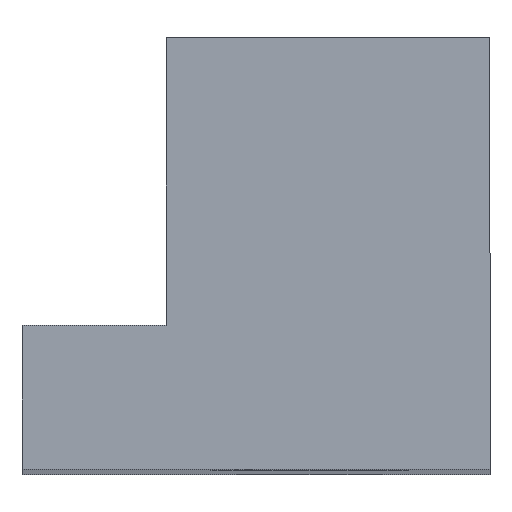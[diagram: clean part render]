
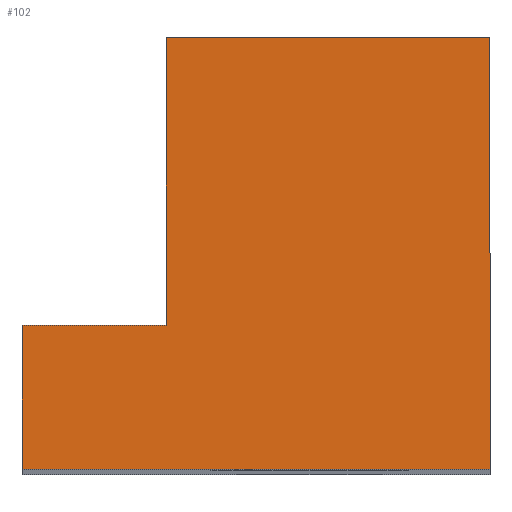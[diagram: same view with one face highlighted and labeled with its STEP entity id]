
A CAD part, top view. The second image highlights one B-rep face of the part: STEP entity #102.
In plain terms, the highlighted planar face has unit normal (0, 0, 1).
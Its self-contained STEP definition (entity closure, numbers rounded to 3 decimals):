
#102=ADVANCED_FACE('',(#192),#194,.T.);
#192=FACE_BOUND('',#193,.T.);
#193=EDGE_LOOP('',(#246,#247,#248,#249,#250,#251));
#194=PLANE('',#195);
#195=AXIS2_PLACEMENT_3D('',#196,#197,#198);
#196=CARTESIAN_POINT('',(0.,0.,80.));
#197=DIRECTION('',(0.,0.,1.));
#198=DIRECTION('',(-1.,0.,0.));
#246=ORIENTED_EDGE('',*,*,#280,.T.);
#247=ORIENTED_EDGE('',*,*,#272,.T.);
#248=ORIENTED_EDGE('',*,*,#281,.T.);
#249=ORIENTED_EDGE('',*,*,#282,.T.);
#250=ORIENTED_EDGE('',*,*,#283,.T.);
#251=ORIENTED_EDGE('',*,*,#266,.T.);
#266=EDGE_CURVE('',#291,#289,#292,.T.);
#272=EDGE_CURVE('',#303,#301,#304,.T.);
#280=EDGE_CURVE('',#289,#303,#316,.T.);
#281=EDGE_CURVE('',#301,#317,#318,.T.);
#282=EDGE_CURVE('',#317,#319,#320,.T.);
#283=EDGE_CURVE('',#319,#291,#321,.T.);
#289=VERTEX_POINT('',#329);
#291=VERTEX_POINT('',#333);
#292=LINE('',#334,#335);
#301=VERTEX_POINT('',#355);
#303=VERTEX_POINT('',#359);
#304=LINE('',#360,#361);
#316=LINE('',#390,#391);
#317=VERTEX_POINT('',#393);
#318=LINE('',#394,#395);
#319=VERTEX_POINT('',#397);
#320=LINE('',#398,#399);
#321=LINE('',#401,#402);
#329=CARTESIAN_POINT('',(0.,-12.,80.));
#333=CARTESIAN_POINT('',(-13.,-12.,80.));
#334=CARTESIAN_POINT('',(-13.,-12.,80.));
#335=VECTOR('',#336,1.);
#336=DIRECTION('',(1.,0.,0.));
#355=CARTESIAN_POINT('',(-9.,0.,80.));
#359=CARTESIAN_POINT('',(0.,0.,80.));
#360=CARTESIAN_POINT('',(0.,0.,80.));
#361=VECTOR('',#362,1.);
#362=DIRECTION('',(-1.,0.,0.));
#390=CARTESIAN_POINT('',(0.,-12.,80.));
#391=VECTOR('',#392,1.);
#392=DIRECTION('',(0.,1.,0.));
#393=CARTESIAN_POINT('',(-9.,-8.,80.));
#394=CARTESIAN_POINT('',(-9.,0.,80.));
#395=VECTOR('',#396,1.);
#396=DIRECTION('',(0.,-1.,0.));
#397=CARTESIAN_POINT('',(-13.,-8.,80.));
#398=CARTESIAN_POINT('',(-9.,-8.,80.));
#399=VECTOR('',#400,1.);
#400=DIRECTION('',(-1.,0.,0.));
#401=CARTESIAN_POINT('',(-13.,-8.,80.));
#402=VECTOR('',#403,1.);
#403=DIRECTION('',(0.,-1.,0.));
